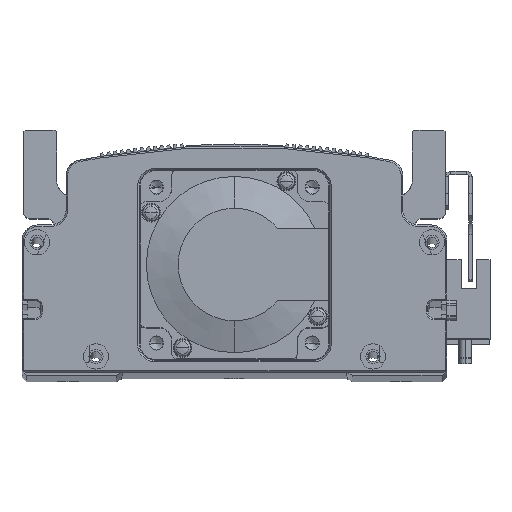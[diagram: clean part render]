
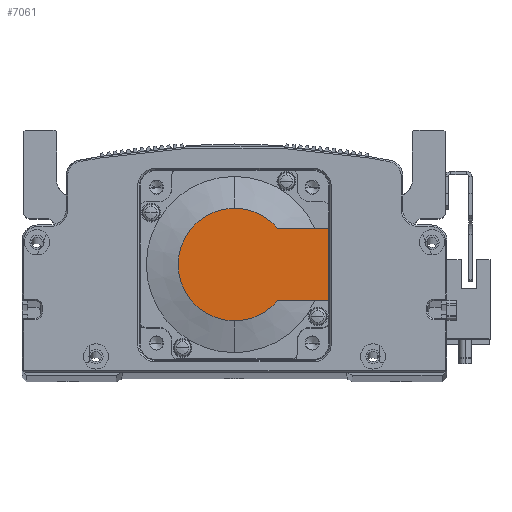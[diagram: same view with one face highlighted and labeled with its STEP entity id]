
A CAD part, top view. The second image highlights one B-rep face of the part: STEP entity #7061.
In plain terms, the highlighted planar face has unit normal (0, 0, 1) as drawn and (-1, 0, 0) by its records, which use the part's own axes.
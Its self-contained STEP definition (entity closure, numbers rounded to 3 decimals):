
#387 = LINE ( 'NONE', #24760, #50197 ) ;
#862 = DIRECTION ( 'NONE',  ( 0., 0., 1. ) ) ;
#4528 = ORIENTED_EDGE ( 'NONE', *, *, #66846, .T. ) ;
#5242 = VERTEX_POINT ( 'NONE', #33224 ) ;
#5888 = CIRCLE ( 'NONE', #15350, 17.881 ) ;
#6052 = DIRECTION ( 'NONE',  ( -1., 0., 0. ) ) ;
#6382 = LINE ( 'NONE', #59961, #25012 ) ;
#6515 = DIRECTION ( 'NONE',  ( -1., 0., 0. ) ) ;
#6561 = ORIENTED_EDGE ( 'NONE', *, *, #67536, .F. ) ;
#7061 = ADVANCED_FACE ( 'NONE', ( #51852 ), #59860, .T. ) ;
#7605 = VERTEX_POINT ( 'NONE', #46662 ) ;
#15350 = AXIS2_PLACEMENT_3D ( 'NONE', #65725, #6515, #64801 ) ;
#15927 = CARTESIAN_POINT ( 'NONE',  ( -118.5, 30., 11.45 ) ) ;
#15935 = DIRECTION ( 'NONE',  ( 0., -1., 0. ) ) ;
#21085 = VERTEX_POINT ( 'NONE', #63078 ) ;
#24760 = CARTESIAN_POINT ( 'NONE',  ( -118.5, 30., 25. ) ) ;
#25012 = VECTOR ( 'NONE', #33571, 1000. ) ;
#26022 = ORIENTED_EDGE ( 'NONE', *, *, #37872, .T. ) ;
#27609 = CARTESIAN_POINT ( 'NONE',  ( -118.5, -8.941, 0. ) ) ;
#29802 = CARTESIAN_POINT ( 'NONE',  ( -118.5, 30., -11.45 ) ) ;
#30073 = EDGE_CURVE ( 'NONE', #5242, #46634, #5888, .T. ) ;
#31448 = ORIENTED_EDGE ( 'NONE', *, *, #56337, .F. ) ;
#31912 = VERTEX_POINT ( 'NONE', #15927 ) ;
#33064 = AXIS2_PLACEMENT_3D ( 'NONE', #27609, #6052, #862 ) ;
#33224 = CARTESIAN_POINT ( 'NONE',  ( -118.5, 0., 17.881 ) ) ;
#33571 = DIRECTION ( 'NONE',  ( 0., -1., 0. ) ) ;
#36593 = DIRECTION ( 'NONE',  ( 0., 0., -1. ) ) ;
#36828 = DIRECTION ( 'NONE',  ( -1., 0., 0. ) ) ;
#37872 = EDGE_CURVE ( 'NONE', #21085, #7605, #49570, .T. ) ;
#40444 = EDGE_CURVE ( 'NONE', #7605, #5242, #64564, .T. ) ;
#46634 = VERTEX_POINT ( 'NONE', #68220 ) ;
#46662 = CARTESIAN_POINT ( 'NONE',  ( -118.5, 0., -17.881 ) ) ;
#47663 = LINE ( 'NONE', #69195, #59394 ) ;
#47885 = DIRECTION ( 'NONE',  ( -1., 0., 0. ) ) ;
#49570 = CIRCLE ( 'NONE', #68106, 17.881 ) ;
#50197 = VECTOR ( 'NONE', #52546, 1000. ) ;
#51852 = FACE_OUTER_BOUND ( 'NONE', #54438, .T. ) ;
#52546 = DIRECTION ( 'NONE',  ( 0., 0., 1. ) ) ;
#54438 = EDGE_LOOP ( 'NONE', ( #4528, #26022, #56403, #57080, #31448, #6561 ) ) ;
#54697 = AXIS2_PLACEMENT_3D ( 'NONE', #68601, #36828, #36593 ) ;
#56337 = EDGE_CURVE ( 'NONE', #31912, #46634, #47663, .T. ) ;
#56403 = ORIENTED_EDGE ( 'NONE', *, *, #40444, .T. ) ;
#56582 = VERTEX_POINT ( 'NONE', #29802 ) ;
#57080 = ORIENTED_EDGE ( 'NONE', *, *, #30073, .T. ) ;
#59158 = CARTESIAN_POINT ( 'NONE',  ( -118.5, 0., 0. ) ) ;
#59394 = VECTOR ( 'NONE', #15935, 1000. ) ;
#59860 = PLANE ( 'NONE',  #33064 ) ;
#59961 = CARTESIAN_POINT ( 'NONE',  ( -118.5, -8.941, -11.45 ) ) ;
#63078 = CARTESIAN_POINT ( 'NONE',  ( -118.5, 13.735, -11.45 ) ) ;
#64564 = CIRCLE ( 'NONE', #54697, 17.881 ) ;
#64801 = DIRECTION ( 'NONE',  ( 0., 0., -1. ) ) ;
#65725 = CARTESIAN_POINT ( 'NONE',  ( -118.5, 0., 0. ) ) ;
#66846 = EDGE_CURVE ( 'NONE', #56582, #21085, #6382, .T. ) ;
#67536 = EDGE_CURVE ( 'NONE', #56582, #31912, #387, .T. ) ;
#68106 = AXIS2_PLACEMENT_3D ( 'NONE', #59158, #47885, #69788 ) ;
#68220 = CARTESIAN_POINT ( 'NONE',  ( -118.5, 13.735, 11.45 ) ) ;
#68601 = CARTESIAN_POINT ( 'NONE',  ( -118.5, 0., 0. ) ) ;
#69195 = CARTESIAN_POINT ( 'NONE',  ( -118.5, 0., 11.45 ) ) ;
#69788 = DIRECTION ( 'NONE',  ( 0., 0., -1. ) ) ;
